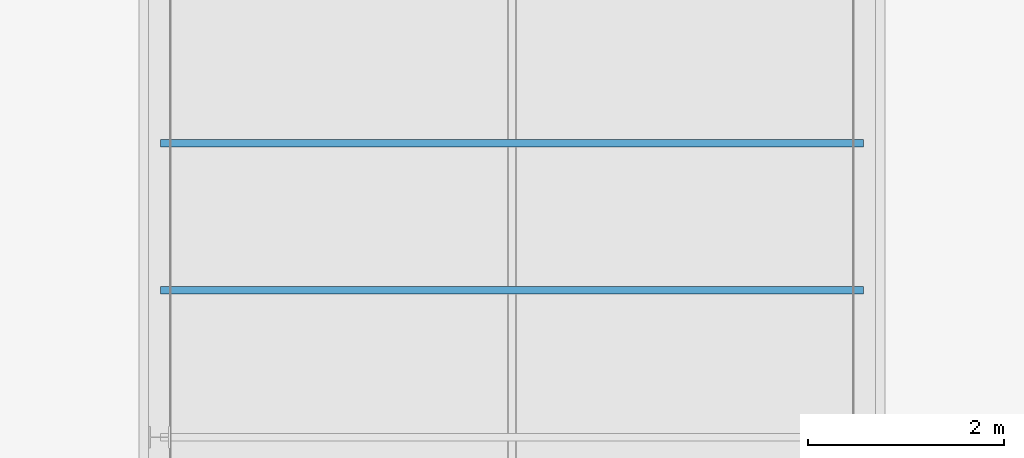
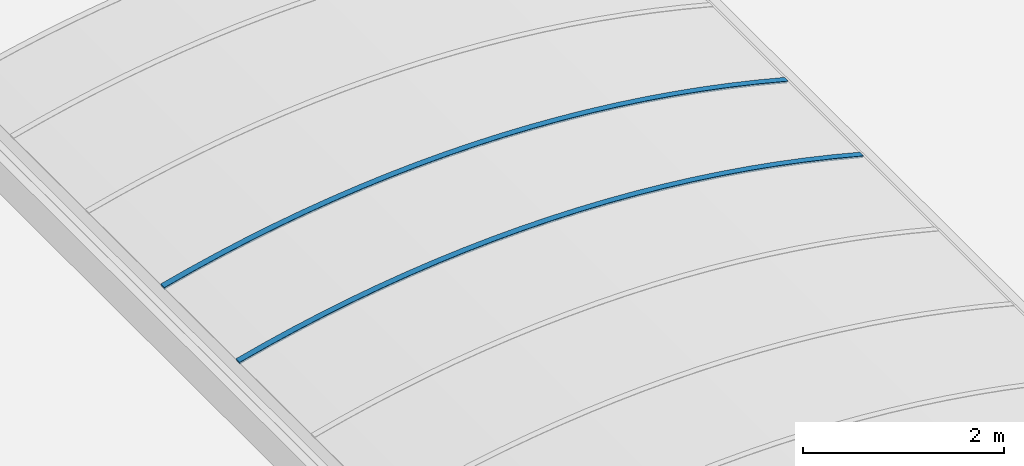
# One storey, part 48 of 81: 2 beams.
"""IFC2X3 building model written with IfcOpenShell, lengths in millimetres."""

from ifc_helpers import new_model, entity, si_unit, converted_unit, derived_unit, money_unit, direction, frame, origin_with_axes, place, context, subcontext, project, spatial, faceted_brep, material, material_list, type_object, element, save


model = new_model("IFC2X3")

# Units and contexts
model_context = context("Model", 3, precision=0.01, world=origin_with_axes(), true_north=direction((0.0, 1.0)))
body_context = subcontext(model_context, "Body", "Model", "MODEL_VIEW")
ifc_project = project(units=[si_unit("LENGTHUNIT", "METRE", prefix="MILLI"), si_unit("AREAUNIT", "SQUARE_METRE"), si_unit("VOLUMEUNIT", "CUBIC_METRE"), converted_unit("PLANEANGLEUNIT", "DEGREE", entity("IfcPlaneAngleMeasure", 0.0174532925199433), si_unit("PLANEANGLEUNIT", "RADIAN"), dimensions=[0, 0, 0, 0, 0, 0, 0]), money_unit("EUR"), converted_unit("TIMEUNIT", "Year", entity("IfcTimeMeasure", 31557600.0), si_unit("TIMEUNIT", "SECOND"), dimensions=[0, 0, 1, 0, 0, 0, 0]), si_unit("MASSUNIT", "GRAM", prefix="KILO"), si_unit("THERMODYNAMICTEMPERATUREUNIT", "DEGREE_CELSIUS"), si_unit("LUMINOUSINTENSITYUNIT", "LUMEN"), si_unit("ENERGYUNIT", "JOULE", prefix="MEGA"), derived_unit("THERMALCONDUCTANCEUNIT", [(si_unit("POWERUNIT", "WATT"), 1), (si_unit("LENGTHUNIT", "METRE"), -1), (si_unit("THERMODYNAMICTEMPERATUREUNIT", "KELVIN"), -1)]), derived_unit("SPECIFICHEATCAPACITYUNIT", [(si_unit("ENERGYUNIT", "JOULE"), 1), (si_unit("MASSUNIT", "GRAM", prefix="KILO"), -1), (si_unit("THERMODYNAMICTEMPERATUREUNIT", "KELVIN"), -1)]), derived_unit("MASSDENSITYUNIT", [(si_unit("MASSUNIT", "GRAM", prefix="KILO"), 1), (si_unit("VOLUMEUNIT", "CUBIC_METRE"), -1)])], contexts=[model_context])

# Site, building, storey
site_placement = place(None, origin_with_axes())
site = spatial("IfcSite", under=ifc_project, at=site_placement, Name="Site", CompositionType="ELEMENT")
building_placement = place(site_placement, origin_with_axes())
building = spatial("IfcBuilding", under=site, at=building_placement, Name="Naam gebouw", CompositionType="ELEMENT")
storey_placement = place(building_placement, frame((0.0, 0.0, 15320.0), z_axis=(0.0, 0.0, 1.0), x_axis=(1.0, 0.0, 0.0)))
storey = spatial("IfcBuildingStorey", under=building, at=storey_placement, Name="01 dak", CompositionType="ELEMENT", Elevation=15320.0)

# Beams
ifc_material = material(Name="Metaal - Aluminium AFW")
ifc_material_list = material_list([ifc_material, ifc_material])
beam_type = type_object("IfcBeamType", Name="lichtstraat polycarbonaat (constructie) 7420 x 670", PredefinedType="BEAM")
beam_1_placement = place(storey_placement, frame((46900.00000000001, 81862.50000000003, 559.9999999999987), z_axis=(0.0, 0.0, 1.0), x_axis=(1.0, 0.0, 0.0)))
element("IfcBeam", 1, at=beam_1_placement, inside=storey, type_object=beam_type, material=ifc_material_list, Name="Plafondafwerking 3", ObjectType="BEAM", context=body_context, shape_type="Brep", body=[
    faceted_brep([(-3532.999999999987, 0.0, 192.1385480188), (-3582.999999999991, 0.0, 179.000000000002), (-3582.999999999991, 75.00000000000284, 179.000000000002), (-3532.999999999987, 75.00000000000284, 192.1385480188), (-3264.746952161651, 0.0, 264.2761146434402), (-3584.237010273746, 0.0, 183.6724462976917), (-3527.999999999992, 0.0, 193.4415530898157), (-3213.322878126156, 0.0, 271.5053933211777), (-2896.922437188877, 0.0, 342.2614189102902), (-2578.968364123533, 0.0, 405.6716830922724), (-2259.631179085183, 0.0, 461.7021786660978), (-1939.082143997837, 0.0, 510.3228562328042), (-1617.493170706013, 0.0, 551.5076403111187), (-1295.036728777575, 0.0, 585.2344433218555), (-971.8857530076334, 0.0, 611.485177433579), (-648.2135506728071, 0.0, 630.2457642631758), (-324.1937085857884, 0.0, 641.5061424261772), (0.0, 0.0, 645.2602729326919), (324.1937085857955, 0.0, 641.5061424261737), (648.2135506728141, 0.0, 630.2457642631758), (971.8857530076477, 0.0, 611.4851774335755), (1295.036728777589, 0.0, 585.2344433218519), (1617.49317070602, 0.0, 551.5076403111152), (1939.082143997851, 0.0, 510.3228562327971), (2259.63117908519, 0.0, 461.7021786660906), (2578.968364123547, 0.0, 405.6716830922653), (2896.922437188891, 0.0, 342.2614189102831), (3213.322878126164, 0.0, 271.5053933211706), (3528.000000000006, 0.0, 193.4415530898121), (3528.000000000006, 0.0, 194.0000000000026), (3533.000000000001, 0.0, 194.0000000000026), (3533.000000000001, 0.0, 192.1385480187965), (3582.999999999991, 0.0, 179.000000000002), (3584.237010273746, 0.0, 183.6724462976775), (3264.746952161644, 0.0, 264.2761146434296), (2943.448443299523, 0.0, 337.3385317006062), (2620.519461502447, 0.0, 402.8192257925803), (2296.138887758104, 0.0, 460.6819250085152), (1970.486407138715, 0.0, 510.8945772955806), (1643.742409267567, 0.0, 553.4293682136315), (1316.087888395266, 0.0, 588.2627363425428), (987.7043431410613, 0.0, 615.3753863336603), (658.7736759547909, 0.0, 634.7522995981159), (329.4780923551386, 0.0, 646.3827426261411), (0.0, 0.0, 650.2602729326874), (-329.4780923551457, 0.0, 646.3827426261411), (-658.7736759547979, 0.0, 634.7522995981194), (-987.7043431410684, 0.0, 615.375386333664), (-1316.087888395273, 0.0, 588.2627363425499), (-1643.742409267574, 0.0, 553.4293682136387), (-1970.486407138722, 0.0, 510.8945772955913), (-2296.138887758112, 0.0, 460.6819250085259), (-2620.519461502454, 0.0, 402.8192257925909), (-2943.44844329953, 0.0, 337.3385317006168), (-3584.237010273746, 75.00000000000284, 183.6724462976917), (-3527.999999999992, 75.00000000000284, 193.4415530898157), (-3264.746952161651, 75.00000000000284, 264.2761146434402), (-2943.44844329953, 75.00000000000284, 337.3385317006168), (-2620.519461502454, 75.00000000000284, 402.8192257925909), (-2296.138887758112, 75.00000000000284, 460.6819250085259), (-1970.486407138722, 75.00000000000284, 510.8945772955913), (-1643.742409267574, 75.00000000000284, 553.4293682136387), (-1316.087888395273, 75.00000000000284, 588.2627363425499), (-987.7043431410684, 75.00000000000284, 615.375386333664), (-658.7736759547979, 75.00000000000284, 634.7522995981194), (-329.4780923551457, 75.00000000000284, 646.3827426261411), (0.0, 75.00000000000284, 650.2602729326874), (329.4780923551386, 75.00000000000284, 646.3827426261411), (658.7736759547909, 75.00000000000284, 634.7522995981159), (987.7043431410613, 75.00000000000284, 615.3753863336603), (1316.087888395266, 75.00000000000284, 588.2627363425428), (1643.742409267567, 75.00000000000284, 553.4293682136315), (1970.486407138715, 75.00000000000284, 510.8945772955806), (2296.138887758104, 75.00000000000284, 460.6819250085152), (2620.519461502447, 75.00000000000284, 402.8192257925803), (2943.448443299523, 75.00000000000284, 337.3385317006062), (3264.746952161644, 75.00000000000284, 264.2761146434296), (3584.237010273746, 75.00000000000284, 183.6724462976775), (3582.999999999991, 75.00000000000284, 179.000000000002), (3533.000000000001, 75.00000000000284, 192.1385480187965), (3533.000000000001, 75.00000000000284, 194.0000000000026), (3528.000000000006, 75.00000000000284, 194.0000000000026), (3528.000000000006, 75.00000000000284, 193.4415530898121), (3213.322878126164, 75.00000000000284, 271.5053933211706), (2896.922437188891, 75.00000000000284, 342.2614189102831), (2578.968364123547, 75.00000000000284, 405.6716830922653), (2259.63117908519, 75.00000000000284, 461.7021786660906), (1939.082143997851, 75.00000000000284, 510.3228562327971), (1617.49317070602, 75.00000000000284, 551.5076403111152), (1295.036728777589, 75.00000000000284, 585.2344433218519), (971.8857530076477, 75.00000000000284, 611.4851774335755), (648.2135506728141, 75.00000000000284, 630.2457642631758), (324.1937085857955, 75.00000000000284, 641.5061424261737), (0.0, 75.00000000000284, 645.2602729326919), (-324.1937085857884, 75.00000000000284, 641.5061424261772), (-648.2135506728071, 75.00000000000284, 630.2457642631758), (-971.8857530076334, 75.00000000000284, 611.485177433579), (-1295.036728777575, 75.00000000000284, 585.2344433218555), (-1617.493170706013, 75.00000000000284, 551.5076403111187), (-1939.082143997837, 75.00000000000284, 510.3228562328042), (-2259.631179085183, 75.00000000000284, 461.7021786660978), (-2578.968364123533, 75.00000000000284, 405.6716830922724), (-2896.922437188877, 75.00000000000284, 342.2614189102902), (-3213.322878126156, 75.00000000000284, 271.5053933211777)], [[[0, 1, 2, 3]], [[4, 5, 1, 0, 6, 7, 8, 9, 10, 11, 12, 13, 14, 15, 16, 17, 18, 19, 20, 21, 22, 23, 24, 25, 26, 27, 28, 29, 30, 31, 32, 33, 34, 35, 36, 37, 38, 39, 40, 41, 42, 43, 44, 45, 46, 47, 48, 49, 50, 51, 52, 53]], [[1, 5, 54, 2]], [[55, 3, 2, 54, 56, 57, 58, 59, 60, 61, 62, 63, 64, 65, 66, 67, 68, 69, 70, 71, 72, 73, 74, 75, 76, 77, 78, 79, 80, 81, 82, 83, 84, 85, 86, 87, 88, 89, 90, 91, 92, 93, 94, 95, 96, 97, 98, 99, 100, 101, 102, 103]], [[6, 0, 3, 55]], [[5, 4, 56, 54]], [[7, 6, 55, 103]], [[8, 7, 103, 102]], [[9, 8, 102, 101]], [[10, 9, 101, 100]], [[11, 10, 100, 99]], [[12, 11, 99, 98]], [[13, 12, 98, 97]], [[14, 13, 97, 96]], [[15, 14, 96, 95]], [[16, 15, 95, 94]], [[17, 16, 94, 93]], [[18, 17, 93, 92]], [[19, 18, 92, 91]], [[20, 19, 91, 90]], [[21, 20, 90, 89]], [[22, 21, 89, 88]], [[23, 22, 88, 87]], [[24, 23, 87, 86]], [[25, 24, 86, 85]], [[26, 25, 85, 84]], [[27, 26, 84, 83]], [[28, 27, 83, 82]], [[29, 28, 82, 81]], [[30, 29, 81, 80]], [[31, 30, 80, 79]], [[32, 31, 79, 78]], [[33, 32, 78, 77]], [[34, 33, 77, 76]], [[35, 34, 76, 75]], [[36, 35, 75, 74]], [[37, 36, 74, 73]], [[38, 37, 73, 72]], [[39, 38, 72, 71]], [[40, 39, 71, 70]], [[41, 40, 70, 69]], [[42, 41, 69, 68]], [[43, 42, 68, 67]], [[44, 43, 67, 66]], [[45, 44, 66, 65]], [[46, 45, 65, 64]], [[47, 46, 64, 63]], [[48, 47, 63, 62]], [[49, 48, 62, 61]], [[50, 49, 61, 60]], [[51, 50, 60, 59]], [[52, 51, 59, 58]], [[53, 52, 58, 57]], [[4, 53, 57, 56]]]),
    faceted_brep([(3269.271727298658, 75.00000000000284, 283.190243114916), (2947.542627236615, 75.00000000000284, 356.4574241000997), (2947.542627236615, 0.0, 356.4574241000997), (3269.271727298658, 0.0, 283.190243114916), (3589.18475202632, 75.00000000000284, 202.3611008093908), (3587.947861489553, 75.00000000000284, 197.6891067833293), (3528.000000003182, 75.00000000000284, 213.4415530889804), (3213.322878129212, 75.00000000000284, 291.505393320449), (2896.922437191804, 75.00000000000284, 362.2614189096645), (2578.968364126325, 75.00000000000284, 425.6716830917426), (2259.631179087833, 75.00000000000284, 481.7021786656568), (1939.082144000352, 75.00000000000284, 530.3228562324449), (1617.493170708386, 75.00000000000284, 571.5076403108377), (1295.036728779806, 75.00000000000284, 605.2344433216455), (971.8857530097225, 75.00000000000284, 631.4851774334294), (648.2135506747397, 75.00000000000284, 650.2457642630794), (324.1937085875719, 75.00000000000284, 661.5061424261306), (1.63424829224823e-09, 75.00000000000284, 665.2602729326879), (-324.1937085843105, 75.00000000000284, 661.5061424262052), (-648.2135506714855, 75.00000000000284, 650.2457642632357), (-971.8857530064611, 75.00000000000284, 631.4851774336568), (-1295.036728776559, 75.00000000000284, 605.2344433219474), (-1617.493170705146, 75.00000000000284, 571.5076403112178), (-1939.082143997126, 75.00000000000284, 530.3228562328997), (-2259.631179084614, 75.00000000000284, 481.7021786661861), (-2578.968364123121, 75.00000000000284, 425.6716830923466), (-2896.922437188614, 75.00000000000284, 362.2614189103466), (-3213.322878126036, 75.00000000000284, 291.5053933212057), (-3528.00000000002, 75.00000000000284, 213.4415530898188), (-3533.000000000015, 75.00000000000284, 212.1385480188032), (-3587.947861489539, 75.00000000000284, 197.6891067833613), (-3589.184752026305, 75.00000000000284, 202.3611008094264), (-3269.271727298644, 75.00000000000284, 283.1902431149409), (-2947.542627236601, 75.00000000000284, 356.4574241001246), (-2624.176171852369, 75.00000000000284, 422.1219439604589), (-2299.351990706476, 75.00000000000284, 480.1473261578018), (-1973.250523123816, 75.00000000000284, 530.5013376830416), (-1646.052917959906, 75.00000000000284, 573.156006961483), (-1317.940932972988, 75.00000000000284, 608.0876393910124), (-989.0968338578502, 75.00000000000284, 635.2768305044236), (-659.7032929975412, 75.00000000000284, 654.7084767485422), (-329.9432879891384, 75.00000000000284, 666.3717838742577), (0.0, 75.00000000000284, 670.2602729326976), (329.9432879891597, 75.00000000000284, 666.3717838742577), (659.7032929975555, 75.00000000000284, 654.7084767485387), (989.0968338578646, 75.00000000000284, 635.2768305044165), (1317.940932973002, 75.00000000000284, 608.0876393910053), (1646.052917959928, 75.00000000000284, 573.1560069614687), (1973.250523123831, 75.00000000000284, 530.5013376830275), (2299.351990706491, 75.00000000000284, 480.147326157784), (2624.176171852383, 75.00000000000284, 422.1219439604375), (2624.176171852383, 0.0, 422.1219439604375), (2299.351990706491, 0.0, 480.147326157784), (1973.250523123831, 0.0, 530.5013376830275), (1646.052917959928, 0.0, 573.1560069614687), (1317.940932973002, 0.0, 608.0876393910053), (989.0968338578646, 0.0, 635.2768305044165), (659.7032929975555, 0.0, 654.7084767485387), (329.9432879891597, 0.0, 666.3717838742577), (0.0, 0.0, 670.2602729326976), (-329.9432879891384, 0.0, 666.3717838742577), (-659.7032929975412, 0.0, 654.7084767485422), (-989.0968338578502, 0.0, 635.2768305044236), (-1317.940932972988, 0.0, 608.0876393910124), (-1646.052917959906, 0.0, 573.156006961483), (-1973.250523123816, 0.0, 530.5013376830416), (-2299.351990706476, 0.0, 480.1473261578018), (-2624.176171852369, 0.0, 422.1219439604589), (-2947.542627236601, 0.0, 356.4574241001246), (-3269.271727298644, 0.0, 283.1902431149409), (-3589.184752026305, 0.0, 202.3611008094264), (-3587.947861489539, 0.0, 197.6891067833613), (-3533.000000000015, 0.0, 212.1385480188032), (-3528.00000000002, 0.0, 213.4415530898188), (-3213.322878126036, 0.0, 291.5053933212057), (-2896.922437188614, 0.0, 362.2614189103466), (-2578.968364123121, 0.0, 425.6716830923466), (-2259.631179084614, 0.0, 481.7021786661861), (-1939.082143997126, 0.0, 530.3228562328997), (-1617.493170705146, 0.0, 571.5076403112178), (-1295.036728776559, 0.0, 605.2344433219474), (-971.8857530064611, 0.0, 631.4851774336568), (-648.2135506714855, 0.0, 650.2457642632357), (-324.1937085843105, 0.0, 661.5061424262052), (1.63424829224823e-09, 0.0, 665.2602729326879), (324.1937085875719, 0.0, 661.5061424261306), (648.2135506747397, 0.0, 650.2457642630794), (971.8857530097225, 0.0, 631.4851774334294), (1295.036728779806, 0.0, 605.2344433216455), (1617.493170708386, 0.0, 571.5076403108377), (1939.082144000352, 0.0, 530.3228562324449), (2259.631179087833, 0.0, 481.7021786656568), (2578.968364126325, 0.0, 425.6716830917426), (2896.922437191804, 0.0, 362.2614189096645), (3213.322878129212, 0.0, 291.505393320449), (3528.000000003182, 0.0, 213.4415530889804), (3587.947861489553, 0.0, 197.6891067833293), (3589.18475202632, 0.0, 202.3611008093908)], [[[0, 1, 2, 3]], [[0, 4, 5, 6, 7, 8, 9, 10, 11, 12, 13, 14, 15, 16, 17, 18, 19, 20, 21, 22, 23, 24, 25, 26, 27, 28, 29, 30, 31, 32, 33, 34, 35, 36, 37, 38, 39, 40, 41, 42, 43, 44, 45, 46, 47, 48, 49, 50, 1]], [[1, 50, 51, 2]], [[3, 2, 51, 52, 53, 54, 55, 56, 57, 58, 59, 60, 61, 62, 63, 64, 65, 66, 67, 68, 69, 70, 71, 72, 73, 74, 75, 76, 77, 78, 79, 80, 81, 82, 83, 84, 85, 86, 87, 88, 89, 90, 91, 92, 93, 94, 95, 96, 97]], [[4, 0, 3, 97]], [[5, 4, 97, 96]], [[6, 5, 96, 95]], [[7, 6, 95, 94]], [[8, 7, 94, 93]], [[9, 8, 93, 92]], [[10, 9, 92, 91]], [[11, 10, 91, 90]], [[12, 11, 90, 89]], [[13, 12, 89, 88]], [[14, 13, 88, 87]], [[15, 14, 87, 86]], [[16, 15, 86, 85]], [[17, 16, 85, 84]], [[18, 17, 84, 83]], [[19, 18, 83, 82]], [[20, 19, 82, 81]], [[21, 20, 81, 80]], [[22, 21, 80, 79]], [[23, 22, 79, 78]], [[24, 23, 78, 77]], [[25, 24, 77, 76]], [[26, 25, 76, 75]], [[27, 26, 75, 74]], [[28, 27, 74, 73]], [[29, 28, 73, 72]], [[30, 29, 72, 71]], [[31, 30, 71, 70]], [[32, 31, 70, 69]], [[33, 32, 69, 68]], [[34, 33, 68, 67]], [[35, 34, 67, 66]], [[36, 35, 66, 65]], [[37, 36, 65, 64]], [[38, 37, 64, 63]], [[39, 38, 63, 62]], [[40, 39, 62, 61]], [[41, 40, 61, 60]], [[42, 41, 60, 59]], [[43, 42, 59, 58]], [[44, 43, 58, 57]], [[45, 44, 57, 56]], [[46, 45, 56, 55]], [[47, 46, 55, 54]], [[48, 47, 54, 53]], [[49, 48, 53, 52]], [[50, 49, 52, 51]]]),
])
beam_2_placement = place(storey_placement, frame((46900.00000000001, 83362.50000000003, 559.9999999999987), z_axis=(0.0, 0.0, 1.0), x_axis=(1.0, 0.0, 0.0)))
element("IfcBeam", 2, at=beam_2_placement, inside=storey, type_object=beam_type, material=ifc_material_list, Name="Plafondafwerking 3", ObjectType="BEAM", context=body_context, shape_type="Brep", body=[
    faceted_brep([(-3532.999999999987, 0.0, 192.1385480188), (-3582.999999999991, 0.0, 179.000000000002), (-3582.999999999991, 75.00000000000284, 179.000000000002), (-3532.999999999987, 75.00000000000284, 192.1385480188), (-3264.746952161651, 0.0, 264.2761146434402), (-3584.237010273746, 0.0, 183.6724462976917), (-3527.999999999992, 0.0, 193.4415530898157), (-3213.322878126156, 0.0, 271.5053933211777), (-2896.922437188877, 0.0, 342.2614189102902), (-2578.968364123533, 0.0, 405.6716830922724), (-2259.631179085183, 0.0, 461.7021786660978), (-1939.082143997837, 0.0, 510.3228562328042), (-1617.493170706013, 0.0, 551.5076403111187), (-1295.036728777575, 0.0, 585.2344433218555), (-971.8857530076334, 0.0, 611.485177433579), (-648.2135506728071, 0.0, 630.2457642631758), (-324.1937085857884, 0.0, 641.5061424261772), (0.0, 0.0, 645.2602729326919), (324.1937085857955, 0.0, 641.5061424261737), (648.2135506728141, 0.0, 630.2457642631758), (971.8857530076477, 0.0, 611.4851774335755), (1295.036728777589, 0.0, 585.2344433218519), (1617.49317070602, 0.0, 551.5076403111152), (1939.082143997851, 0.0, 510.3228562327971), (2259.63117908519, 0.0, 461.7021786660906), (2578.968364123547, 0.0, 405.6716830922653), (2896.922437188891, 0.0, 342.2614189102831), (3213.322878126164, 0.0, 271.5053933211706), (3528.000000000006, 0.0, 193.4415530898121), (3528.000000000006, 0.0, 194.0000000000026), (3533.000000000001, 0.0, 194.0000000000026), (3533.000000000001, 0.0, 192.1385480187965), (3582.999999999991, 0.0, 179.000000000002), (3584.237010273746, 0.0, 183.6724462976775), (3264.746952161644, 0.0, 264.2761146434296), (2943.448443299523, 0.0, 337.3385317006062), (2620.519461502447, 0.0, 402.8192257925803), (2296.138887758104, 0.0, 460.6819250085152), (1970.486407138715, 0.0, 510.8945772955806), (1643.742409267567, 0.0, 553.4293682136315), (1316.087888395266, 0.0, 588.2627363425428), (987.7043431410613, 0.0, 615.3753863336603), (658.7736759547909, 0.0, 634.7522995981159), (329.4780923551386, 0.0, 646.3827426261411), (0.0, 0.0, 650.2602729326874), (-329.4780923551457, 0.0, 646.3827426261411), (-658.7736759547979, 0.0, 634.7522995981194), (-987.7043431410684, 0.0, 615.375386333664), (-1316.087888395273, 0.0, 588.2627363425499), (-1643.742409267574, 0.0, 553.4293682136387), (-1970.486407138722, 0.0, 510.8945772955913), (-2296.138887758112, 0.0, 460.6819250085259), (-2620.519461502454, 0.0, 402.8192257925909), (-2943.44844329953, 0.0, 337.3385317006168), (-3584.237010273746, 75.00000000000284, 183.6724462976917), (-3527.999999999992, 75.00000000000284, 193.4415530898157), (-3264.746952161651, 75.00000000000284, 264.2761146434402), (-2943.44844329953, 75.00000000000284, 337.3385317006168), (-2620.519461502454, 75.00000000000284, 402.8192257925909), (-2296.138887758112, 75.00000000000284, 460.6819250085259), (-1970.486407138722, 75.00000000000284, 510.8945772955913), (-1643.742409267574, 75.00000000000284, 553.4293682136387), (-1316.087888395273, 75.00000000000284, 588.2627363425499), (-987.7043431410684, 75.00000000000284, 615.375386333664), (-658.7736759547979, 75.00000000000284, 634.7522995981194), (-329.4780923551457, 75.00000000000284, 646.3827426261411), (0.0, 75.00000000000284, 650.2602729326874), (329.4780923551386, 75.00000000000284, 646.3827426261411), (658.7736759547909, 75.00000000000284, 634.7522995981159), (987.7043431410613, 75.00000000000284, 615.3753863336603), (1316.087888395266, 75.00000000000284, 588.2627363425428), (1643.742409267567, 75.00000000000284, 553.4293682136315), (1970.486407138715, 75.00000000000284, 510.8945772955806), (2296.138887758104, 75.00000000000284, 460.6819250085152), (2620.519461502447, 75.00000000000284, 402.8192257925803), (2943.448443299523, 75.00000000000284, 337.3385317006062), (3264.746952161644, 75.00000000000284, 264.2761146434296), (3584.237010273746, 75.00000000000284, 183.6724462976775), (3582.999999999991, 75.00000000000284, 179.000000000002), (3533.000000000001, 75.00000000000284, 192.1385480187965), (3533.000000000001, 75.00000000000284, 194.0000000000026), (3528.000000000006, 75.00000000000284, 194.0000000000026), (3528.000000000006, 75.00000000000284, 193.4415530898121), (3213.322878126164, 75.00000000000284, 271.5053933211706), (2896.922437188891, 75.00000000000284, 342.2614189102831), (2578.968364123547, 75.00000000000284, 405.6716830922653), (2259.63117908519, 75.00000000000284, 461.7021786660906), (1939.082143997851, 75.00000000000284, 510.3228562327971), (1617.49317070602, 75.00000000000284, 551.5076403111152), (1295.036728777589, 75.00000000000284, 585.2344433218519), (971.8857530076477, 75.00000000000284, 611.4851774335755), (648.2135506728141, 75.00000000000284, 630.2457642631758), (324.1937085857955, 75.00000000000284, 641.5061424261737), (0.0, 75.00000000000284, 645.2602729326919), (-324.1937085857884, 75.00000000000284, 641.5061424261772), (-648.2135506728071, 75.00000000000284, 630.2457642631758), (-971.8857530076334, 75.00000000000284, 611.485177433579), (-1295.036728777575, 75.00000000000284, 585.2344433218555), (-1617.493170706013, 75.00000000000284, 551.5076403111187), (-1939.082143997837, 75.00000000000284, 510.3228562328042), (-2259.631179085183, 75.00000000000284, 461.7021786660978), (-2578.968364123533, 75.00000000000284, 405.6716830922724), (-2896.922437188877, 75.00000000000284, 342.2614189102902), (-3213.322878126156, 75.00000000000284, 271.5053933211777)], [[[0, 1, 2, 3]], [[4, 5, 1, 0, 6, 7, 8, 9, 10, 11, 12, 13, 14, 15, 16, 17, 18, 19, 20, 21, 22, 23, 24, 25, 26, 27, 28, 29, 30, 31, 32, 33, 34, 35, 36, 37, 38, 39, 40, 41, 42, 43, 44, 45, 46, 47, 48, 49, 50, 51, 52, 53]], [[1, 5, 54, 2]], [[55, 3, 2, 54, 56, 57, 58, 59, 60, 61, 62, 63, 64, 65, 66, 67, 68, 69, 70, 71, 72, 73, 74, 75, 76, 77, 78, 79, 80, 81, 82, 83, 84, 85, 86, 87, 88, 89, 90, 91, 92, 93, 94, 95, 96, 97, 98, 99, 100, 101, 102, 103]], [[6, 0, 3, 55]], [[5, 4, 56, 54]], [[7, 6, 55, 103]], [[8, 7, 103, 102]], [[9, 8, 102, 101]], [[10, 9, 101, 100]], [[11, 10, 100, 99]], [[12, 11, 99, 98]], [[13, 12, 98, 97]], [[14, 13, 97, 96]], [[15, 14, 96, 95]], [[16, 15, 95, 94]], [[17, 16, 94, 93]], [[18, 17, 93, 92]], [[19, 18, 92, 91]], [[20, 19, 91, 90]], [[21, 20, 90, 89]], [[22, 21, 89, 88]], [[23, 22, 88, 87]], [[24, 23, 87, 86]], [[25, 24, 86, 85]], [[26, 25, 85, 84]], [[27, 26, 84, 83]], [[28, 27, 83, 82]], [[29, 28, 82, 81]], [[30, 29, 81, 80]], [[31, 30, 80, 79]], [[32, 31, 79, 78]], [[33, 32, 78, 77]], [[34, 33, 77, 76]], [[35, 34, 76, 75]], [[36, 35, 75, 74]], [[37, 36, 74, 73]], [[38, 37, 73, 72]], [[39, 38, 72, 71]], [[40, 39, 71, 70]], [[41, 40, 70, 69]], [[42, 41, 69, 68]], [[43, 42, 68, 67]], [[44, 43, 67, 66]], [[45, 44, 66, 65]], [[46, 45, 65, 64]], [[47, 46, 64, 63]], [[48, 47, 63, 62]], [[49, 48, 62, 61]], [[50, 49, 61, 60]], [[51, 50, 60, 59]], [[52, 51, 59, 58]], [[53, 52, 58, 57]], [[4, 53, 57, 56]]]),
    faceted_brep([(3269.271727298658, 75.00000000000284, 283.190243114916), (2947.542627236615, 75.00000000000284, 356.4574241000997), (2947.542627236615, 0.0, 356.4574241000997), (3269.271727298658, 0.0, 283.190243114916), (3589.18475202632, 75.00000000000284, 202.3611008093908), (3587.947861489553, 75.00000000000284, 197.6891067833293), (3528.000000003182, 75.00000000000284, 213.4415530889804), (3213.322878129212, 75.00000000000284, 291.505393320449), (2896.922437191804, 75.00000000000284, 362.2614189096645), (2578.968364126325, 75.00000000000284, 425.6716830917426), (2259.631179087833, 75.00000000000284, 481.7021786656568), (1939.082144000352, 75.00000000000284, 530.3228562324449), (1617.493170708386, 75.00000000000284, 571.5076403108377), (1295.036728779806, 75.00000000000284, 605.2344433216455), (971.8857530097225, 75.00000000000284, 631.4851774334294), (648.2135506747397, 75.00000000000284, 650.2457642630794), (324.1937085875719, 75.00000000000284, 661.5061424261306), (1.63424829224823e-09, 75.00000000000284, 665.2602729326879), (-324.1937085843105, 75.00000000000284, 661.5061424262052), (-648.2135506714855, 75.00000000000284, 650.2457642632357), (-971.8857530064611, 75.00000000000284, 631.4851774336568), (-1295.036728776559, 75.00000000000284, 605.2344433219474), (-1617.493170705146, 75.00000000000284, 571.5076403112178), (-1939.082143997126, 75.00000000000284, 530.3228562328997), (-2259.631179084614, 75.00000000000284, 481.7021786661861), (-2578.968364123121, 75.00000000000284, 425.6716830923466), (-2896.922437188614, 75.00000000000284, 362.2614189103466), (-3213.322878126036, 75.00000000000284, 291.5053933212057), (-3528.00000000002, 75.00000000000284, 213.4415530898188), (-3533.000000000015, 75.00000000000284, 212.1385480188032), (-3587.947861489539, 75.00000000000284, 197.6891067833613), (-3589.184752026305, 75.00000000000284, 202.3611008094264), (-3269.271727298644, 75.00000000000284, 283.1902431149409), (-2947.542627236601, 75.00000000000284, 356.4574241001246), (-2624.176171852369, 75.00000000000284, 422.1219439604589), (-2299.351990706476, 75.00000000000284, 480.1473261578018), (-1973.250523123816, 75.00000000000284, 530.5013376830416), (-1646.052917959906, 75.00000000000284, 573.156006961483), (-1317.940932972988, 75.00000000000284, 608.0876393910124), (-989.0968338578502, 75.00000000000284, 635.2768305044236), (-659.7032929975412, 75.00000000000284, 654.7084767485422), (-329.9432879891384, 75.00000000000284, 666.3717838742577), (0.0, 75.00000000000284, 670.2602729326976), (329.9432879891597, 75.00000000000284, 666.3717838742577), (659.7032929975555, 75.00000000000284, 654.7084767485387), (989.0968338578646, 75.00000000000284, 635.2768305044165), (1317.940932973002, 75.00000000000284, 608.0876393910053), (1646.052917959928, 75.00000000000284, 573.1560069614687), (1973.250523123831, 75.00000000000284, 530.5013376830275), (2299.351990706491, 75.00000000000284, 480.147326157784), (2624.176171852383, 75.00000000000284, 422.1219439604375), (2624.176171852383, 0.0, 422.1219439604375), (2299.351990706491, 0.0, 480.147326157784), (1973.250523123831, 0.0, 530.5013376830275), (1646.052917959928, 0.0, 573.1560069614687), (1317.940932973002, 0.0, 608.0876393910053), (989.0968338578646, 0.0, 635.2768305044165), (659.7032929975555, 0.0, 654.7084767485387), (329.9432879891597, 0.0, 666.3717838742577), (0.0, 0.0, 670.2602729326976), (-329.9432879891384, 0.0, 666.3717838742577), (-659.7032929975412, 0.0, 654.7084767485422), (-989.0968338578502, 0.0, 635.2768305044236), (-1317.940932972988, 0.0, 608.0876393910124), (-1646.052917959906, 0.0, 573.156006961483), (-1973.250523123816, 0.0, 530.5013376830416), (-2299.351990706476, 0.0, 480.1473261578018), (-2624.176171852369, 0.0, 422.1219439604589), (-2947.542627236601, 0.0, 356.4574241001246), (-3269.271727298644, 0.0, 283.1902431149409), (-3589.184752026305, 0.0, 202.3611008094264), (-3587.947861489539, 0.0, 197.6891067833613), (-3533.000000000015, 0.0, 212.1385480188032), (-3528.00000000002, 0.0, 213.4415530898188), (-3213.322878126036, 0.0, 291.5053933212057), (-2896.922437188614, 0.0, 362.2614189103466), (-2578.968364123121, 0.0, 425.6716830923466), (-2259.631179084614, 0.0, 481.7021786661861), (-1939.082143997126, 0.0, 530.3228562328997), (-1617.493170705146, 0.0, 571.5076403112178), (-1295.036728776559, 0.0, 605.2344433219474), (-971.8857530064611, 0.0, 631.4851774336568), (-648.2135506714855, 0.0, 650.2457642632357), (-324.1937085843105, 0.0, 661.5061424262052), (1.63424829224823e-09, 0.0, 665.2602729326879), (324.1937085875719, 0.0, 661.5061424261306), (648.2135506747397, 0.0, 650.2457642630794), (971.8857530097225, 0.0, 631.4851774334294), (1295.036728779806, 0.0, 605.2344433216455), (1617.493170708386, 0.0, 571.5076403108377), (1939.082144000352, 0.0, 530.3228562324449), (2259.631179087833, 0.0, 481.7021786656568), (2578.968364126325, 0.0, 425.6716830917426), (2896.922437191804, 0.0, 362.2614189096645), (3213.322878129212, 0.0, 291.505393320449), (3528.000000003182, 0.0, 213.4415530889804), (3587.947861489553, 0.0, 197.6891067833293), (3589.18475202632, 0.0, 202.3611008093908)], [[[0, 1, 2, 3]], [[0, 4, 5, 6, 7, 8, 9, 10, 11, 12, 13, 14, 15, 16, 17, 18, 19, 20, 21, 22, 23, 24, 25, 26, 27, 28, 29, 30, 31, 32, 33, 34, 35, 36, 37, 38, 39, 40, 41, 42, 43, 44, 45, 46, 47, 48, 49, 50, 1]], [[1, 50, 51, 2]], [[3, 2, 51, 52, 53, 54, 55, 56, 57, 58, 59, 60, 61, 62, 63, 64, 65, 66, 67, 68, 69, 70, 71, 72, 73, 74, 75, 76, 77, 78, 79, 80, 81, 82, 83, 84, 85, 86, 87, 88, 89, 90, 91, 92, 93, 94, 95, 96, 97]], [[4, 0, 3, 97]], [[5, 4, 97, 96]], [[6, 5, 96, 95]], [[7, 6, 95, 94]], [[8, 7, 94, 93]], [[9, 8, 93, 92]], [[10, 9, 92, 91]], [[11, 10, 91, 90]], [[12, 11, 90, 89]], [[13, 12, 89, 88]], [[14, 13, 88, 87]], [[15, 14, 87, 86]], [[16, 15, 86, 85]], [[17, 16, 85, 84]], [[18, 17, 84, 83]], [[19, 18, 83, 82]], [[20, 19, 82, 81]], [[21, 20, 81, 80]], [[22, 21, 80, 79]], [[23, 22, 79, 78]], [[24, 23, 78, 77]], [[25, 24, 77, 76]], [[26, 25, 76, 75]], [[27, 26, 75, 74]], [[28, 27, 74, 73]], [[29, 28, 73, 72]], [[30, 29, 72, 71]], [[31, 30, 71, 70]], [[32, 31, 70, 69]], [[33, 32, 69, 68]], [[34, 33, 68, 67]], [[35, 34, 67, 66]], [[36, 35, 66, 65]], [[37, 36, 65, 64]], [[38, 37, 64, 63]], [[39, 38, 63, 62]], [[40, 39, 62, 61]], [[41, 40, 61, 60]], [[42, 41, 60, 59]], [[43, 42, 59, 58]], [[44, 43, 58, 57]], [[45, 44, 57, 56]], [[46, 45, 56, 55]], [[47, 46, 55, 54]], [[48, 47, 54, 53]], [[49, 48, 53, 52]], [[50, 49, 52, 51]]]),
])

save(model, "model.ifc")
